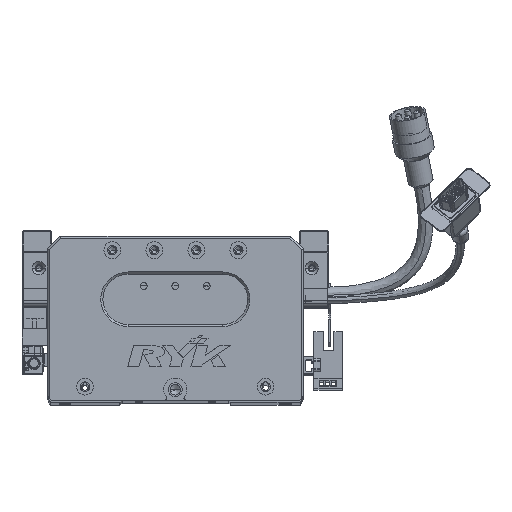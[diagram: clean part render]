
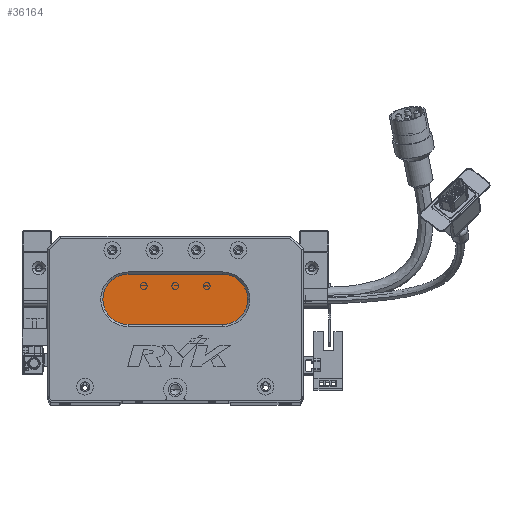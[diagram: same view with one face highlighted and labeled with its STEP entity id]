
A CAD part, top view. The second image highlights one B-rep face of the part: STEP entity #36164.
In plain terms, the highlighted planar face has unit normal (0, 0, 1) as drawn and (0, 0, -1) by its records, which use the part's own axes.
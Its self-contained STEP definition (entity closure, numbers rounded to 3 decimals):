
#466 = CIRCLE ( 'NONE', #39880, 12. ) ;
#1745 = VERTEX_POINT ( 'NONE', #61925 ) ;
#1802 = EDGE_CURVE ( 'NONE', #4388, #1745, #74069, .T. ) ;
#2295 = CARTESIAN_POINT ( 'NONE',  ( 38.5, 60., 13. ) ) ;
#2590 = CARTESIAN_POINT ( 'NONE',  ( 26.5, 48., 13. ) ) ;
#2702 = CARTESIAN_POINT ( 'NONE',  ( 83.5, 48., 13. ) ) ;
#2944 = CARTESIAN_POINT ( 'NONE',  ( 83.5, 36., 13. ) ) ;
#4388 = VERTEX_POINT ( 'NONE', #2295 ) ;
#9426 = DIRECTION ( 'NONE',  ( 0., 0., -1. ) ) ;
#9693 = PLANE ( 'NONE',  #13194 ) ;
#13194 = AXIS2_PLACEMENT_3D ( 'NONE', #28768, #54494, #16423 ) ;
#16423 = DIRECTION ( 'NONE',  ( -1., 0., 0. ) ) ;
#22121 = CARTESIAN_POINT ( 'NONE',  ( 38.5, 48., 13. ) ) ;
#25946 = VERTEX_POINT ( 'NONE', #46661 ) ;
#27094 = VECTOR ( 'NONE', #50435, 1000. ) ;
#28768 = CARTESIAN_POINT ( 'NONE',  ( 83.5, 48., 13. ) ) ;
#34353 = CIRCLE ( 'NONE', #56143, 12. ) ;
#35834 = VECTOR ( 'NONE', #74041, 1000. ) ;
#35964 = VERTEX_POINT ( 'NONE', #2944 ) ;
#36002 = ORIENTED_EDGE ( 'NONE', *, *, #82235, .T. ) ;
#36164 = ADVANCED_FACE ( 'NONE', ( #78034 ), #9693, .T. ) ;
#37099 = DIRECTION ( 'NONE',  ( -1., 0., 0. ) ) ;
#37371 = CIRCLE ( 'NONE', #52087, 12. ) ;
#39880 = AXIS2_PLACEMENT_3D ( 'NONE', #49387, #68377, #37099 ) ;
#41138 = DIRECTION ( 'NONE',  ( -1., 0., 0. ) ) ;
#43119 = EDGE_CURVE ( 'NONE', #35964, #25946, #55808, .T. ) ;
#44291 = CARTESIAN_POINT ( 'NONE',  ( 83.5, 60., 13. ) ) ;
#45833 = ORIENTED_EDGE ( 'NONE', *, *, #1802, .T. ) ;
#45933 = EDGE_LOOP ( 'NONE', ( #82367, #62011, #36002, #74722, #45833 ) ) ;
#46661 = CARTESIAN_POINT ( 'NONE',  ( 38.5, 36., 13. ) ) ;
#49317 = EDGE_CURVE ( 'NONE', #1745, #35964, #37371, .T. ) ;
#49387 = CARTESIAN_POINT ( 'NONE',  ( 38.5, 48., 13. ) ) ;
#50435 = DIRECTION ( 'NONE',  ( 1., 0., 0. ) ) ;
#52087 = AXIS2_PLACEMENT_3D ( 'NONE', #2702, #9426, #72361 ) ;
#54494 = DIRECTION ( 'NONE',  ( 0., 0., -1. ) ) ;
#54536 = CARTESIAN_POINT ( 'NONE',  ( 83.5, 36., 13. ) ) ;
#55085 = DIRECTION ( 'NONE',  ( 0., 0., -1. ) ) ;
#55808 = LINE ( 'NONE', #54536, #35834 ) ;
#56143 = AXIS2_PLACEMENT_3D ( 'NONE', #22121, #55085, #41138 ) ;
#61925 = CARTESIAN_POINT ( 'NONE',  ( 83.5, 60., 13. ) ) ;
#62011 = ORIENTED_EDGE ( 'NONE', *, *, #43119, .T. ) ;
#64984 = VERTEX_POINT ( 'NONE', #2590 ) ;
#68377 = DIRECTION ( 'NONE',  ( 0., 0., -1. ) ) ;
#69583 = EDGE_CURVE ( 'NONE', #64984, #4388, #466, .T. ) ;
#72361 = DIRECTION ( 'NONE',  ( -1., 0., 0. ) ) ;
#74041 = DIRECTION ( 'NONE',  ( -1., 0., 0. ) ) ;
#74069 = LINE ( 'NONE', #44291, #27094 ) ;
#74722 = ORIENTED_EDGE ( 'NONE', *, *, #69583, .T. ) ;
#78034 = FACE_OUTER_BOUND ( 'NONE', #45933, .T. ) ;
#82235 = EDGE_CURVE ( 'NONE', #25946, #64984, #34353, .T. ) ;
#82367 = ORIENTED_EDGE ( 'NONE', *, *, #49317, .T. ) ;
